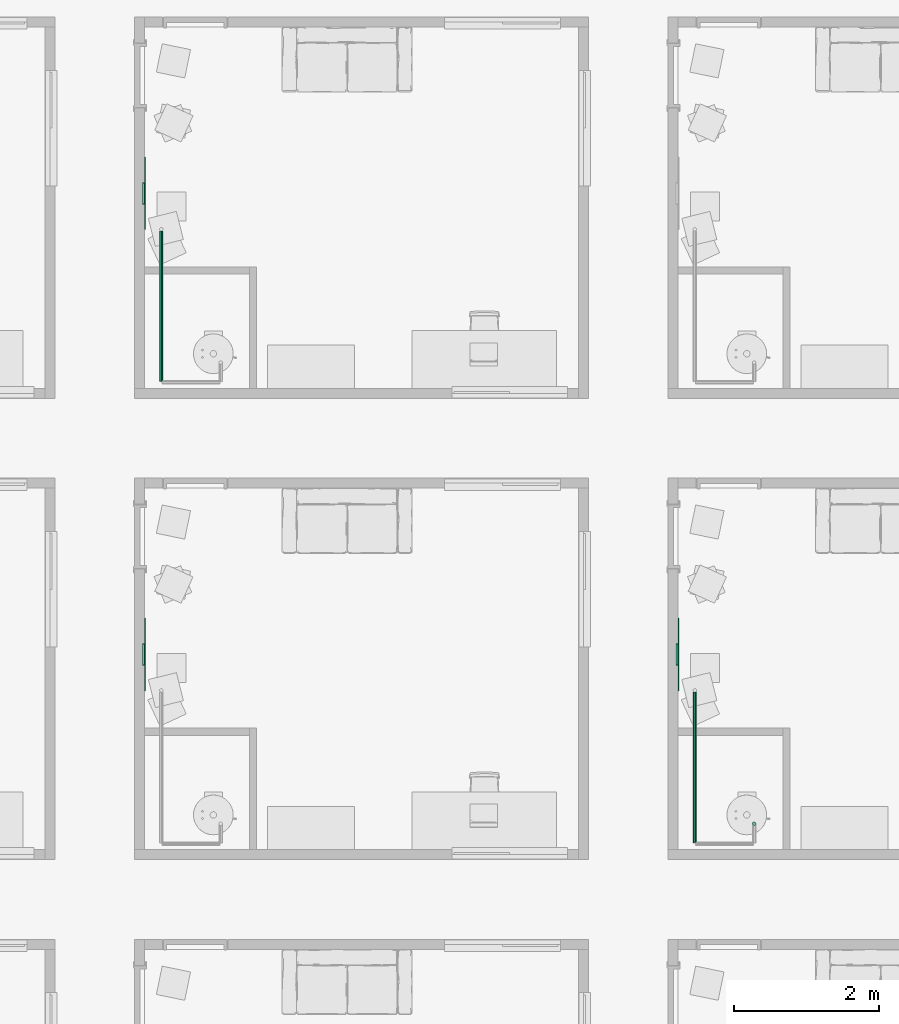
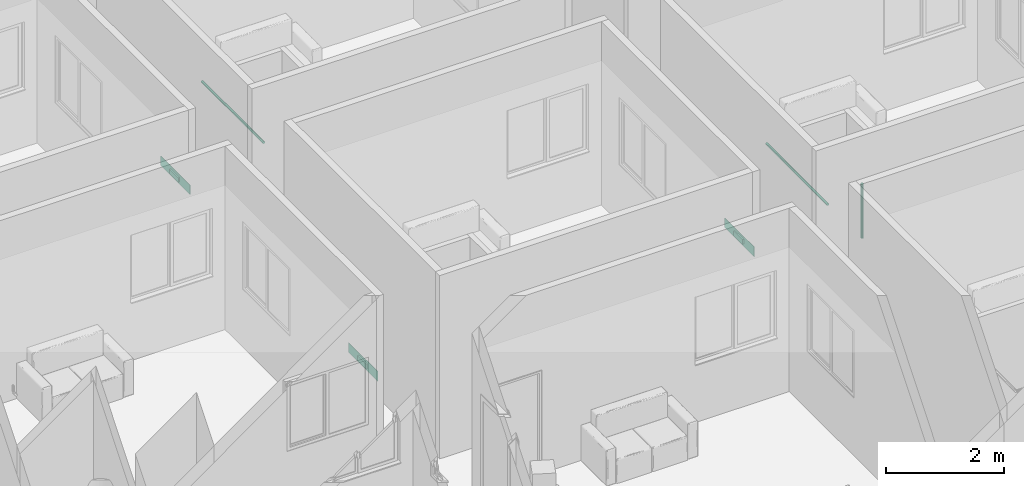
# One storey, part 22 of 71: 3 air terminals, 3 pipe segments.
"""IFC4 building model written with IfcOpenShell, lengths in centimetres."""

from ifc_helpers import new_model, entity, si_unit, converted_unit, derived_unit, direction, frame, origin, place, context, subcontext, project, spatial, arc, indexed_curve, outline, extrude, source, transform, mapped, material, constituent, constituent_set, type_object, type_shapes, element, save


model = new_model("IFC4")

# Units and contexts
model_context = context("Model", 3, precision=0.001, world=origin(), true_north=direction((6.123233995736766e-17, 1.0)))
body_context = subcontext(model_context, "Body", "Model", "MODEL_VIEW")
ifc_project = project(units=[si_unit("LENGTHUNIT", "METRE", prefix="CENTI"), si_unit("AREAUNIT", "SQUARE_METRE"), si_unit("VOLUMEUNIT", "CUBIC_METRE"), derived_unit("THERMALTRANSMITTANCEUNIT", [(si_unit("MASSUNIT", "GRAM", prefix="KILO"), 1), (si_unit("THERMODYNAMICTEMPERATUREUNIT", "KELVIN"), -1), (si_unit("TIMEUNIT", "SECOND"), -3)]), converted_unit("PLANEANGLEUNIT", "DEGREE", entity("IfcPlaneAngleMeasure", 0.017453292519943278), si_unit("PLANEANGLEUNIT", "RADIAN"), dimensions=[0, 0, 0, 0, 0, 0, 0]), derived_unit("MASSDENSITYUNIT", [(si_unit("MASSUNIT", "GRAM", prefix="KILO"), 1), (si_unit("LENGTHUNIT", "METRE"), -3)]), derived_unit("VAPORPERMEABILITYUNIT", [(si_unit("LENGTHUNIT", "METRE"), -1), (si_unit("TIMEUNIT", "SECOND"), 1)]), derived_unit("USERDEFINED", [(si_unit("MASSUNIT", "GRAM", prefix="KILO"), 1), (si_unit("TIMEUNIT", "SECOND"), -3), (si_unit("LENGTHUNIT", "METRE"), 3), (si_unit("ELECTRICCURRENTUNIT", "AMPERE"), -2)]), derived_unit("SPECIFICHEATCAPACITYUNIT", [(si_unit("THERMODYNAMICTEMPERATUREUNIT", "KELVIN"), -1), (si_unit("LENGTHUNIT", "METRE"), 2), (si_unit("TIMEUNIT", "SECOND"), -2)]), derived_unit("THERMALCONDUCTANCEUNIT", [(si_unit("MASSUNIT", "GRAM", prefix="KILO"), 1), (si_unit("THERMODYNAMICTEMPERATUREUNIT", "KELVIN"), -1), (si_unit("TIMEUNIT", "SECOND"), -3), (si_unit("LENGTHUNIT", "METRE"), 1)]), si_unit("PRESSUREUNIT", "PASCAL"), derived_unit("MODULUSOFELASTICITYUNIT", [(si_unit("MASSUNIT", "GRAM", prefix="KILO"), 1), (si_unit("LENGTHUNIT", "METRE"), -1), (si_unit("TIMEUNIT", "SECOND"), -2)]), derived_unit("THERMALEXPANSIONCOEFFICIENTUNIT", [(si_unit("THERMODYNAMICTEMPERATUREUNIT", "KELVIN"), -1)])], contexts=[model_context])

# Site, building, storey, space
site_placement = place(None, origin())
site = spatial("IfcSite", under=ifc_project, at=site_placement, Name="Default", CompositionType="ELEMENT")
building_placement = place(site_placement, origin())
building = spatial("IfcBuilding", under=site, at=building_placement, Name="IDS Escape Game Building", CompositionType="ELEMENT")
storey_placement = place(building_placement, frame((0.0, 0.0, 400.0)))
storey = spatial("IfcBuildingStorey", under=building, at=storey_placement, Name="01_First Floor", CompositionType="ELEMENT", Elevation=399.99999999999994)
space_1_placement = place(storey_placement, origin())
space_1 = spatial("IfcSpace", under=storey, at=space_1_placement, Name="46", CompositionType="ELEMENT", PredefinedType="NOTDEFINED")

# Air terminal
ifc_material_1 = material(Name="TB_LVC_referentievlak_00_gen_BERSnl", Category="BE Default")
ifc_constituent_1 = constituent(ifc_material_1, Name="TB_LVC_referentievlak_00_gen_BERSnl", Category="BE Default", fraction=0.00014157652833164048)
ifc_material_2 = material(Name="ARC_FME.h2_staal_00_gen_BERSnl", Category="h - metaal")
ifc_constituent_2 = constituent(ifc_material_2, Name="ARC_FME.h2_staal_00_gen_BERSnl", Category="h - metaal", fraction=0.9998584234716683)
ifc_constituent_set_1 = constituent_set(constituents=[ifc_constituent_1, ifc_constituent_2])
ifc_constituent_3 = constituent(ifc_material_1, Name="BE Referentievlak", Category="BE Default", fraction=0.00014157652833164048)
ifc_constituent_4 = constituent(ifc_material_2, Name="Terminals", Category="h - metaal", fraction=0.9998584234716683)
ifc_constituent_set_2 = constituent_set(constituents=[ifc_constituent_3, ifc_constituent_4])
air_terminal_type = type_object("IfcAirTerminalType", Name="TB_57_AIR_FB_aanzuigrooster - 1 rechthoekige aansluiting - calculated flow_gen_BERSnl:Air Terminal - Exhaust", PredefinedType="GRILLE", material=ifc_constituent_set_2)
shared_shape = source(origin(), body_context, "Body", "SweptSolid", [
    extrude(outline(indexed_curve([(-0.5, -2.0290176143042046e-15), (6.8507733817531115e-16, -0.5000000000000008), (0.5, 2.0290176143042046e-15), (-5.361679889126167e-16, 0.49999999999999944)], segments=[arc(1, 2, 3), arc(3, 4, 1)], self_intersect=False)), frame((0.0, 0.0, 0.0), z_axis=(1.7453292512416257e-05, 0.0, 1.0), x_axis=(0.0, 1.0, 0.0)), (0.0, 0.0, 1.0), 0.09999999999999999),
    extrude(outline(indexed_curve([(-14.900000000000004, -4.9), (14.900000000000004, -4.9), (14.900000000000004, 4.9), (-14.900000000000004, 4.9), (-14.900000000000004, -4.9)], self_intersect=False)), frame((-4.886921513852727e-05, 0.0, -2.7999999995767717)), (0.0, 0.0, 1.0), 2.7999999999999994),
    extrude(outline(indexed_curve([(-50.0, -10.0), (50.0, -10.0), (50.0, 10.0), (-50.0, 10.0), (-50.0, -10.0)], self_intersect=False)), frame((0.0, 0.0, 0.0), z_axis=(0.0, 0.0, 1.0), x_axis=(-1.0, 0.0, 0.0)), (0.0, 0.0, 1.0), 0.6999999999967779),
])
type_shapes(air_terminal_type, [shared_shape])
air_terminal_1_placement = place(space_1_placement, frame((2221.0, 921.0, 24.0), z_axis=(1.0, 0.0, 0.0), x_axis=(0.0, 1.0, 0.0)))
element("IfcAirTerminal", 1, at=air_terminal_1_placement, inside=space_1, type_object=air_terminal_type, material=ifc_constituent_set_1, Name="TB_57_AIR_FB_aanzuigrooster - 1 rechthoekige aansluiting - calculated flow_gen_BERSnl:Air Terminal - Exhaust", ObjectType="TB_57_AIR_FB_aanzuigrooster - 1 rechthoekige aansluiting - calculated flow_gen_BERSnl:Air Terminal - Exhaust", PredefinedType="GRILLE", context=body_context, shape_type="MappedRepresentation", body=[
    mapped(shared_shape, transform((0.0, 0.0, 0.0), scale=1.0)),
])

# Space
space_2_placement = place(storey_placement, origin())
space_2 = spatial("IfcSpace", under=storey, at=space_2_placement, Name="47", CompositionType="ELEMENT", PredefinedType="NOTDEFINED")

# Air terminal
ifc_constituent_5 = constituent(ifc_material_1, Name="TB_LVC_referentievlak_00_gen_BERSnl", Category="BE Default", fraction=0.00014157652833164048)
ifc_constituent_6 = constituent(ifc_material_2, Name="ARC_FME.h2_staal_00_gen_BERSnl", Category="h - metaal", fraction=0.9998584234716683)
ifc_constituent_set_3 = constituent_set(constituents=[ifc_constituent_5, ifc_constituent_6])
air_terminal_2_placement = place(space_2_placement, frame((2959.0, 921.0, 24.0), z_axis=(1.0, 0.0, 0.0), x_axis=(0.0, 1.0, 0.0)))
element("IfcAirTerminal", 2, at=air_terminal_2_placement, inside=space_2, type_object=air_terminal_type, material=ifc_constituent_set_3, Name="TB_57_AIR_FB_aanzuigrooster - 1 rechthoekige aansluiting - calculated flow_gen_BERSnl:Air Terminal - Exhaust", ObjectType="TB_57_AIR_FB_aanzuigrooster - 1 rechthoekige aansluiting - calculated flow_gen_BERSnl:Air Terminal - Exhaust", PredefinedType="GRILLE", context=body_context, shape_type="MappedRepresentation", body=[
    mapped(shared_shape, transform((0.0, 0.0, 0.0), scale=1.0)),
])

# Space
space_3_placement = place(storey_placement, origin())
space_3 = spatial("IfcSpace", under=storey, at=space_3_placement, Name="53", CompositionType="ELEMENT", PredefinedType="NOTDEFINED")

# Air terminal
ifc_constituent_7 = constituent(ifc_material_1, Name="TB_LVC_referentievlak_00_gen_BERSnl", Category="BE Default", fraction=0.00014157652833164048)
ifc_constituent_8 = constituent(ifc_material_2, Name="ARC_FME.h2_staal_00_gen_BERSnl", Category="h - metaal", fraction=0.9998584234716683)
ifc_constituent_set_4 = constituent_set(constituents=[ifc_constituent_7, ifc_constituent_8])
air_terminal_3_placement = place(space_3_placement, frame((2221.0, 1559.0, 24.0), z_axis=(1.0, 0.0, 0.0), x_axis=(0.0, 1.0, 0.0)))
element("IfcAirTerminal", 3, at=air_terminal_3_placement, inside=space_3, type_object=air_terminal_type, material=ifc_constituent_set_4, Name="TB_57_AIR_FB_aanzuigrooster - 1 rechthoekige aansluiting - calculated flow_gen_BERSnl:Air Terminal - Exhaust", ObjectType="TB_57_AIR_FB_aanzuigrooster - 1 rechthoekige aansluiting - calculated flow_gen_BERSnl:Air Terminal - Exhaust", PredefinedType="GRILLE", context=body_context, shape_type="MappedRepresentation", body=[
    mapped(shared_shape, transform((0.0, 0.0, 0.0), scale=1.0)),
])

# Pipe segments
pipe_segment_type = type_object("IfcPipeSegmentType", Name="Pipe Types:Piping Aluminum", PredefinedType="NOTDEFINED")
pipe_segment_1_placement = place(storey_placement, origin())
element("IfcPipeSegment", 4, at=pipe_segment_1_placement, inside=storey, type_object=pipe_segment_type, Name="Pipe Types:Piping Aluminum", ObjectType="Pipe Types:Piping Aluminum", PredefinedType="NOTDEFINED", context=body_context, shape_type="SweptSolid", body=[
    extrude(outline(indexed_curve([(2.412999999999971, 0.0), (1.7062486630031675, 1.7062486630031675), (0.0, 2.412999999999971), (-1.7062486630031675, 1.7062486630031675), (-2.412999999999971, 0.0), (-1.7062486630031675, -1.7062486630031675), (0.0, -2.412999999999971), (1.7062486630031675, -1.7062486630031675)], segments=[arc(1, 2, 3), arc(3, 4, 5), arc(5, 6, 7), arc(7, 8, 1)], self_intersect=False)), frame((3064.150000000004, 686.9000000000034, 128.0), z_axis=(0.0, 0.0, 1.0), x_axis=(-1.0, 0.0, 0.0)), (0.0, 0.0, 1.0), 112.90000000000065),
])
pipe_segment_2_placement = place(storey_placement, origin())
element("IfcPipeSegment", 5, at=pipe_segment_2_placement, inside=storey, type_object=pipe_segment_type, Name="Pipe Types:Piping Aluminum", ObjectType="Pipe Types:Piping Aluminum", PredefinedType="NOTDEFINED", context=body_context, shape_type="SweptSolid", body=[
    extrude(outline(indexed_curve([(2.412999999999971, 0.0), (1.7062486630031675, 1.7062486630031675), (0.0, 2.412999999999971), (-1.7062486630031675, 1.7062486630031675), (-2.412999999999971, 0.0), (-1.7062486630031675, -1.7062486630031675), (0.0, -2.412999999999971), (1.7062486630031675, -1.7062486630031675)], segments=[arc(1, 2, 3), arc(3, 4, 5), arc(5, 6, 7), arc(7, 8, 1)], self_intersect=False)), frame((2982.046716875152, 660.3648279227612, 242.0), z_axis=(0.0, 1.0, 0.0), x_axis=(1.0, 0.0, 0.0)), (0.0, 0.0, 1.0), 208.80000000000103),
])
pipe_segment_3_placement = place(storey_placement, origin())
element("IfcPipeSegment", 6, at=pipe_segment_3_placement, inside=storey, type_object=pipe_segment_type, Name="Pipe Types:Piping Aluminum", ObjectType="Pipe Types:Piping Aluminum", PredefinedType="NOTDEFINED", context=body_context, shape_type="SweptSolid", body=[
    extrude(outline(indexed_curve([(2.412999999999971, 0.0), (1.7062486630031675, 1.7062486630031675), (0.0, 2.412999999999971), (-1.7062486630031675, 1.7062486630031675), (-2.412999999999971, 0.0), (-1.7062486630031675, -1.7062486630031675), (0.0, -2.412999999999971), (1.7062486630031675, -1.7062486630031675)], segments=[arc(1, 2, 3), arc(3, 4, 5), arc(5, 6, 7), arc(7, 8, 1)], self_intersect=False)), frame((2244.0467168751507, 1298.3648279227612, 242.0), z_axis=(0.0, 1.0, 0.0), x_axis=(1.0, 0.0, 0.0)), (0.0, 0.0, 1.0), 208.80000000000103),
])

save(model, "model.ifc")
